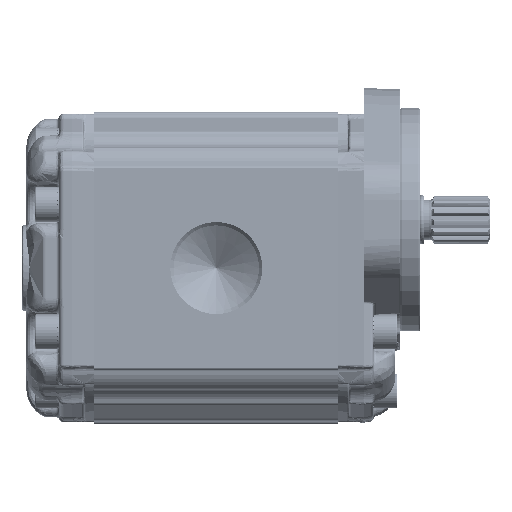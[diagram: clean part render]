
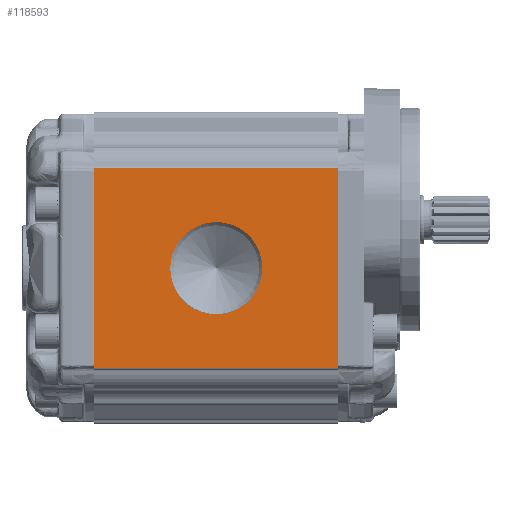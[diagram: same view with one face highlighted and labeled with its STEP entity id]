
A CAD part, left-side view. The second image highlights one B-rep face of the part: STEP entity #118593.
In plain terms, the highlighted planar face has unit normal (-1, 0, 0).
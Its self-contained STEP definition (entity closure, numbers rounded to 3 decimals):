
#7377=PLANE('',#124959);
#10145=LINE('',#216463,#14905);
#10156=LINE('',#216548,#14916);
#10194=LINE('',#216648,#14954);
#10195=LINE('',#216649,#14955);
#14905=VECTOR('',#138310,1000.);
#14916=VECTOR('',#138385,1000.);
#14954=VECTOR('',#138503,1000.);
#14955=VECTOR('',#138504,1000.);
#30601=ORIENTED_EDGE('',*,*,#51679,.T.);
#30602=ORIENTED_EDGE('',*,*,#51583,.F.);
#30603=ORIENTED_EDGE('',*,*,#51680,.T.);
#30604=ORIENTED_EDGE('',*,*,#51625,.F.);
#30605=ORIENTED_EDGE('',*,*,#51681,.T.);
#51583=EDGE_CURVE('',#63003,#63004,#10145,.T.);
#51625=EDGE_CURVE('',#63045,#63046,#10156,.T.);
#51679=EDGE_CURVE('',#63067,#63067,#69698,.F.);
#51680=EDGE_CURVE('',#63003,#63046,#10194,.F.);
#51681=EDGE_CURVE('',#63045,#63004,#10195,.F.);
#63003=VERTEX_POINT('',#216462);
#63004=VERTEX_POINT('',#216464);
#63045=VERTEX_POINT('',#216547);
#63046=VERTEX_POINT('',#216549);
#63067=VERTEX_POINT('',#216647);
#69698=CIRCLE('',#124960,20.976);
#74031=EDGE_LOOP('',(#30601));
#74032=EDGE_LOOP('',(#30602,#30603,#30604,#30605));
#79135=FACE_BOUND('',#74031,.T.);
#79136=FACE_BOUND('',#74032,.T.);
#118593=ADVANCED_FACE('',(#79135,#79136),#7377,.T.);
#124959=AXIS2_PLACEMENT_3D('',#216645,#138499,#138500);
#124960=AXIS2_PLACEMENT_3D('',#216646,#138501,#138502);
#138310=DIRECTION('',(0.,0.,1.));
#138385=DIRECTION('',(0.,0.,-1.));
#138499=DIRECTION('',(-1.,0.,0.));
#138500=DIRECTION('',(0.,0.,-1.));
#138501=DIRECTION('',(-1.,0.,0.));
#138502=DIRECTION('',(0.,0.,-1.));
#138503=DIRECTION('',(0.,1.,0.));
#138504=DIRECTION('',(0.,-1.,0.));
#216462=CARTESIAN_POINT('',(-57.5,111.,-45.5));
#216463=CARTESIAN_POINT('',(-57.5,111.,-84.819));
#216464=CARTESIAN_POINT('',(-57.5,111.,45.5));
#216547=CARTESIAN_POINT('',(-57.5,0.,45.5));
#216548=CARTESIAN_POINT('',(-57.5,0.,-44.978));
#216549=CARTESIAN_POINT('',(-57.5,0.,-45.5));
#216645=CARTESIAN_POINT('',(-57.5,-127.87,-84.819));
#216646=CARTESIAN_POINT('',(-57.5,55.5,0.));
#216647=CARTESIAN_POINT('',(-57.5,55.5,-20.976));
#216648=CARTESIAN_POINT('',(-57.5,-127.87,-45.5));
#216649=CARTESIAN_POINT('',(-57.5,-127.87,45.5));
